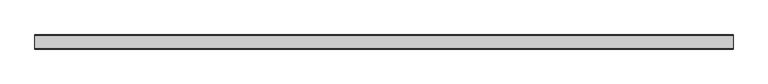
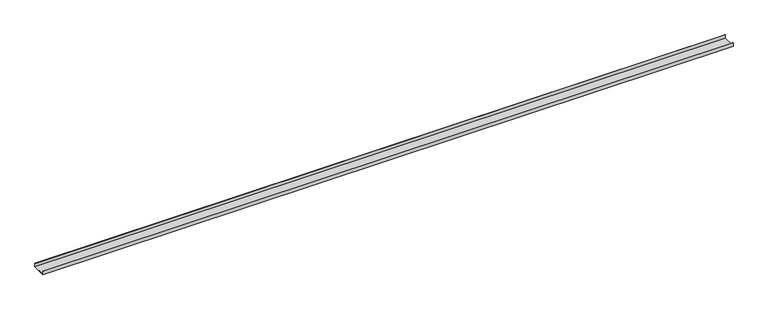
"""IFC4 building model written with IfcOpenShell, lengths in millimetres: proxy geometry, SICON Track Inferior 3 5-8 : SICON Track inferior 3 5/8."""

from ifc_helpers import new_model, si_unit, frame, origin, place, context, project, spatial, polyline, outline, extrude, source, transform, mapped, element, save


def generic_models_b564b728(model_context):
    return source(origin(), model_context, "Body", "SweptSolid", [
        extrude(outline(polyline([(45.5, 0.0), (-45.5, 0.0), (-45.5, 22.0), (-44.5, 22.0), (-44.5, 1.0), (44.5, 1.0), (44.5, 22.0), (45.5, 22.0), (45.5, 0.0)])), frame((2.5746571, 0.0, 0.0), z_axis=(1.0, 0.0, 0.0), x_axis=(0.0, 1.0, 0.0)), (0.0, 0.0, 1.0), 4500.0),
    ])


if __name__ == "__main__":
    model = new_model("IFC4")
    model_context = context("Model", 3, world=origin())
    ifc_project = project(units=[si_unit("LENGTHUNIT", "METRE", prefix="MILLI")], contexts=[model_context])
    site = spatial("IfcSite", under=ifc_project)
    building = spatial("IfcBuilding", under=site)
    placement = place(None, origin())
    generic_models_shape = generic_models_b564b728(model_context)
    element("IfcBuildingElementProxy", 1, Name="SICON Track Inferior 3 5-8 : SICON Track inferior 3 5/8", ObjectType="SICON Track Inferior 3 5-8 : SICON Track inferior 3 5/8", at=placement, inside=building, context=model_context, shape_type="MappedRepresentation", body=[
        mapped(generic_models_shape, transform((0.0, 0.0, 0.0), x_axis=(1.0, 0.0, 0.0), y_axis=(0.0, 1.0, 0.0), z_axis=(0.0, 0.0, 1.0))),
    ])
    save(model, "model.ifc")
